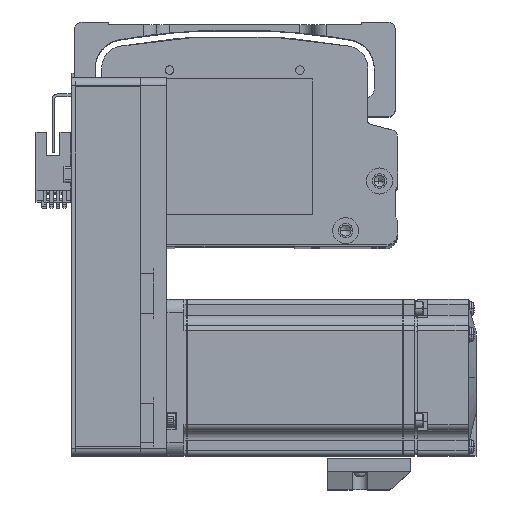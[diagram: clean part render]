
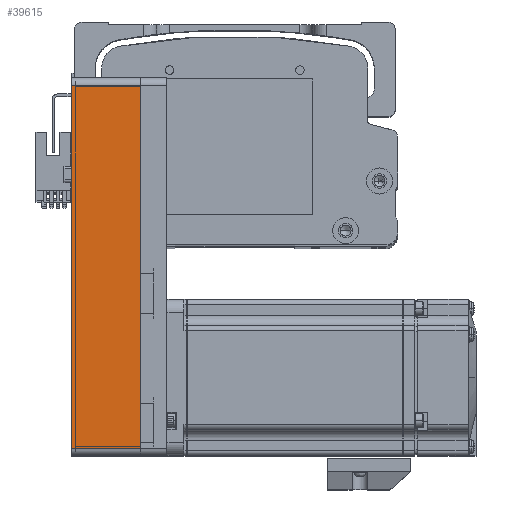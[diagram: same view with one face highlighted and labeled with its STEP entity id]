
A CAD part, top view. The second image highlights one B-rep face of the part: STEP entity #39615.
In plain terms, the highlighted planar face has unit normal (0, 0, 1) as drawn and (0, 1, 0) by its records, which use the part's own axes.
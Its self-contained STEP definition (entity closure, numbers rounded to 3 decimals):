
#736 = CARTESIAN_POINT ( 'NONE',  ( 72.5, 30., 0. ) ) ;
#2278 = ORIENTED_EDGE ( 'NONE', *, *, #62045, .T. ) ;
#7098 = FACE_OUTER_BOUND ( 'NONE', #10740, .T. ) ;
#7371 = EDGE_CURVE ( 'NONE', #21245, #18112, #17467, .T. ) ;
#8091 = ORIENTED_EDGE ( 'NONE', *, *, #39889, .F. ) ;
#8286 = PLANE ( 'NONE',  #21696 ) ;
#9300 = CARTESIAN_POINT ( 'NONE',  ( 69.5, 30., 26.5 ) ) ;
#10740 = EDGE_LOOP ( 'NONE', ( #2278, #15259, #8091, #15951 ) ) ;
#12228 = CARTESIAN_POINT ( 'NONE',  ( -69.5, 30., 0. ) ) ;
#12948 = LINE ( 'NONE', #37999, #78030 ) ;
#14888 = DIRECTION ( 'NONE',  ( 0., -1., 0. ) ) ;
#15259 = ORIENTED_EDGE ( 'NONE', *, *, #7371, .T. ) ;
#15475 = VECTOR ( 'NONE', #73176, 1000. ) ;
#15951 = ORIENTED_EDGE ( 'NONE', *, *, #49214, .T. ) ;
#17467 = LINE ( 'NONE', #79508, #15475 ) ;
#18112 = VERTEX_POINT ( 'NONE', #50641 ) ;
#21245 = VERTEX_POINT ( 'NONE', #12228 ) ;
#21696 = AXIS2_PLACEMENT_3D ( 'NONE', #52675, #14888, #58981 ) ;
#26776 = VERTEX_POINT ( 'NONE', #43193 ) ;
#33840 = VECTOR ( 'NONE', #63567, 1000. ) ;
#34298 = DIRECTION ( 'NONE',  ( 0., 0., -1. ) ) ;
#35120 = VECTOR ( 'NONE', #34298, 1000. ) ;
#37999 = CARTESIAN_POINT ( 'NONE',  ( 72.5, 30., 26.5 ) ) ;
#39615 = ADVANCED_FACE ( 'NONE', ( #7098 ), #8286, .F. ) ;
#39889 = EDGE_CURVE ( 'NONE', #78055, #18112, #12948, .T. ) ;
#43193 = CARTESIAN_POINT ( 'NONE',  ( 69.5, 30., 0. ) ) ;
#46714 = CARTESIAN_POINT ( 'NONE',  ( 69.5, 30., 26.5 ) ) ;
#49214 = EDGE_CURVE ( 'NONE', #78055, #26776, #53906, .T. ) ;
#50641 = CARTESIAN_POINT ( 'NONE',  ( -69.5, 30., 26.5 ) ) ;
#52675 = CARTESIAN_POINT ( 'NONE',  ( 72.5, 30., 26.5 ) ) ;
#53906 = LINE ( 'NONE', #46714, #35120 ) ;
#56179 = LINE ( 'NONE', #736, #33840 ) ;
#57031 = DIRECTION ( 'NONE',  ( -1., 0., 0. ) ) ;
#58981 = DIRECTION ( 'NONE',  ( 1., 0., 0. ) ) ;
#62045 = EDGE_CURVE ( 'NONE', #26776, #21245, #56179, .T. ) ;
#63567 = DIRECTION ( 'NONE',  ( -1., 0., 0. ) ) ;
#73176 = DIRECTION ( 'NONE',  ( 0., 0., 1. ) ) ;
#78030 = VECTOR ( 'NONE', #57031, 1000. ) ;
#78055 = VERTEX_POINT ( 'NONE', #9300 ) ;
#79508 = CARTESIAN_POINT ( 'NONE',  ( -69.5, 30., 26.5 ) ) ;
